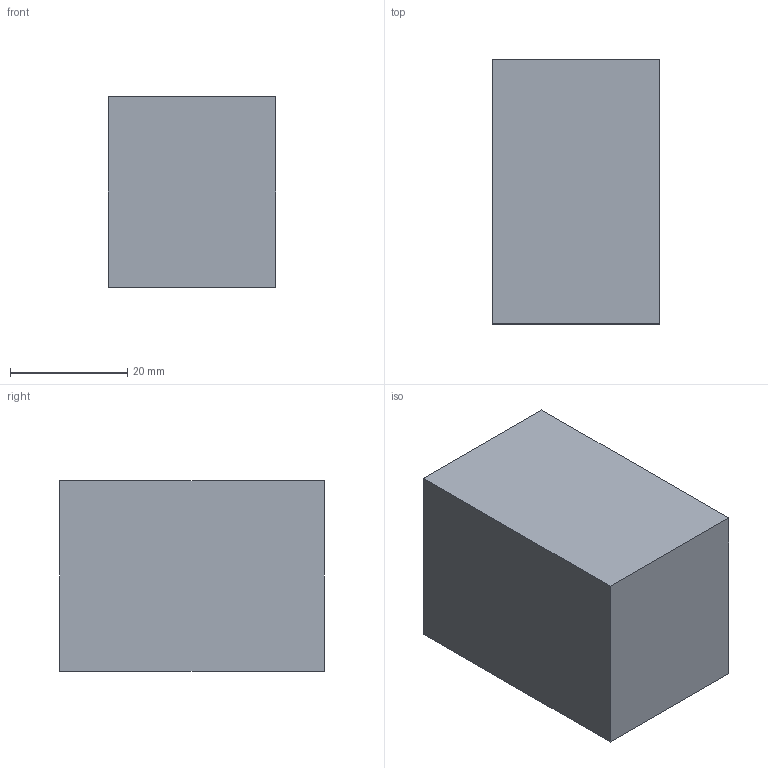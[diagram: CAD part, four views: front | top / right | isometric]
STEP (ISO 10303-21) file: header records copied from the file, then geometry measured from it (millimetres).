
FILE_DESCRIPTION(('Open CASCADE Model'),'2;1');
FILE_NAME('Open CASCADE Shape Model','2026-10-13T15:24:31',('Author'),( 'Open CASCADE'),'Open CASCADE STEP processor 8.0','build123d', 'Unknown');
FILE_SCHEMA(('AUTOMOTIVE_DESIGN { 1 0 10303 214 1 1 1 1 }'));
Length unit declared in the file: millimetre
Products named in the file (1): COMPOUND
Bounding box: 28.5 x 45 x 32.5 mm (x, y, z)
Volume: 15681.3 mm3; surface area: 10722.5 mm2
Topology: 1 solids, 1 shells, 11 faces, 24 edges, 16 vertices
Faces by surface type: plane 11
Entity records: 612 total; most frequent: CARTESIAN_POINT 108, DIRECTION 88, LINE 64, VECTOR 64, ORIENTED_EDGE 48, PCURVE 48, DEFINITIONAL_REPRESENTATION 48, EDGE_CURVE 24
